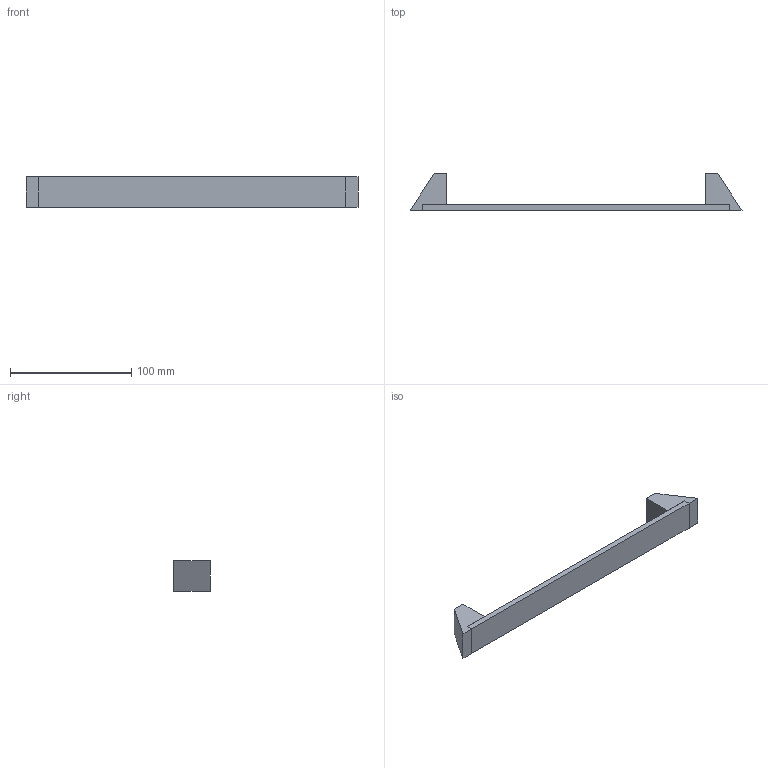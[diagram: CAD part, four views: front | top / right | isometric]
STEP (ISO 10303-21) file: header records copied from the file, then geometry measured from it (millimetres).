
FILE_DESCRIPTION( ( '' ), '1' );
FILE_NAME( 'C:/Documents and Settings/Sachin/Desktop/Sheet 10_1/stp/9113317.stp', '2013-10-22T11:57:42', ( '' ), ( '' ), ' ', ' ', ' ' );
FILE_SCHEMA( ( 'CONFIG_CONTROL_DESIGN' ) );
Length unit declared in the file: millimetre
Products named in the file (1): 1
Bounding box: 274 x 30 x 25 mm (x, y, z)
Volume: 56270.1 mm3; surface area: 20904.2 mm2
Topology: 1 solids, 1 shells, 28 faces, 68 edges, 44 vertices
Faces by surface type: plane 24, cylinder 4
Entity records: 852 total; most frequent: CARTESIAN_POINT 141, ORIENTED_EDGE 136, DIRECTION 134, EDGE_CURVE 68, LINE 60, VECTOR 60, VERTEX_POINT 44, AXIS2_PLACEMENT_3D 37
